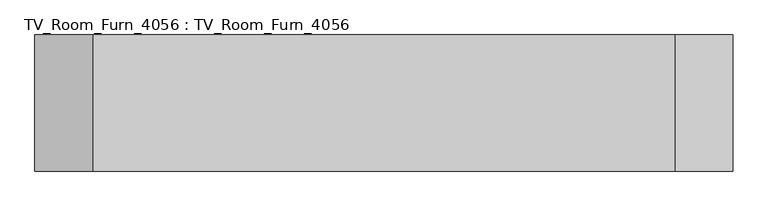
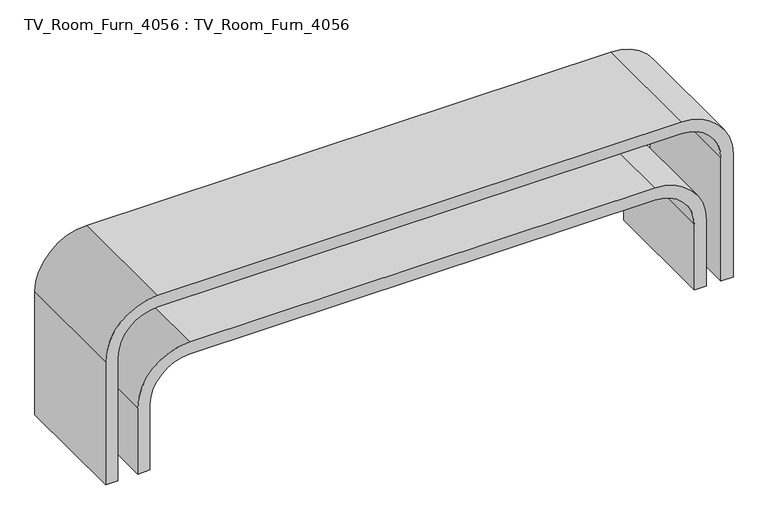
"""IFC4 building model written with IfcOpenShell, lengths in millimetres: furniture geometry, TV_Room_Furn_4056 : TV_Room_Furn_4056."""

from ifc_helpers import new_model, si_unit, point, frame, frame_2d, origin, place, context, project, spatial, polyline, circle_curve, trimmed, segment, composite_curve, outline, extrude, source, transform, mapped, element, save


def tv_room_furn_4056_tv_room_furn_4056_870fe8c4(model_context):
    return source(origin(), model_context, "Body", "SweptSolid", [
        extrude(outline(composite_curve([segment(trimmed(circle_curve(frame_2d((285.0039964, 1017.6724373)), 212.1320344), [point((285.0039964, 1229.8044717))], [point((497.1360307, 1017.6724373))], False, "CARTESIAN"), True, "CONTINUOUS"), segment(polyline([(497.1360307, 1017.6724373), (497.1360307, -882.3275627)]), True, "CONTINUOUS"), segment(trimmed(circle_curve(frame_2d((285.0039964, -882.3275627)), 212.1320344), [point((497.1360307, -882.3275627))], [point((285.0039964, -1094.459597))], False, "CARTESIAN"), True, "CONTINUOUS"), segment(polyline([(285.0039964, -1094.459597), (0.0, -1094.459597), (0.0, -1044.459597), (282.9910052, -1044.459597)]), True, "CONTINUOUS"), segment(trimmed(circle_curve(frame_2d((282.9910052, -882.3275627)), 162.1320344), [point((282.9910052, -1044.459597))], [point((445.1230396, -882.3275627))], True, "CARTESIAN"), True, "CONTINUOUS"), segment(polyline([(445.1230396, -882.3275627), (445.1230396, 1017.6724373)]), True, "CONTINUOUS"), segment(trimmed(circle_curve(frame_2d((282.9910052, 1017.6724373)), 162.1320344), [point((445.1230396, 1017.6724373))], [point((282.9910052, 1179.8044717))], True, "CARTESIAN"), True, "CONTINUOUS"), segment(polyline([(282.9910052, 1179.8044717), (0.0, 1179.8044717), (0.0, 1229.8044717), (285.0039964, 1229.8044717)]), True, "CONTINUOUS")], self_intersect=False)), frame((0.0, -251.5396497, 0.0), z_axis=(0.0, 1.0, 0.0), x_axis=(0.0, 0.0, 1.0)), (0.0, 0.0, 1.0), 500.0),
        extrude(outline(composite_curve([segment(polyline([(532.1320344, -1225.6808572), (0.0, -1225.6808572), (0.0, -1175.6808572), (532.1320344, -1175.6808572)]), True, "CONTINUOUS"), segment(trimmed(circle_curve(frame_2d((532.1320344, -1013.5488228)), 162.1320344), [point((532.1320344, -1175.6808572))], [point((694.2640687, -1013.5488228))], True, "CARTESIAN"), True, "CONTINUOUS"), segment(polyline([(694.2640687, -1013.5488228), (694.2640687, 1126.4511772)]), True, "CONTINUOUS"), segment(trimmed(circle_curve(frame_2d((532.1320344, 1126.4511772)), 162.1320344), [point((694.2640687, 1126.4511772))], [point((532.1320344, 1288.5832115))], True, "CARTESIAN"), True, "CONTINUOUS"), segment(polyline([(532.1320344, 1288.5832115), (0.0, 1288.5832115), (0.0, 1338.5832115), (532.1320344, 1338.5832115)]), True, "CONTINUOUS"), segment(trimmed(circle_curve(frame_2d((532.1320344, 1126.4511772)), 212.1320344), [point((532.1320344, 1338.5832115))], [point((744.2640687, 1126.4511772))], False, "CARTESIAN"), True, "CONTINUOUS"), segment(polyline([(744.2640687, 1126.4511772), (744.2640687, -1013.5488228)]), True, "CONTINUOUS"), segment(trimmed(circle_curve(frame_2d((532.1320344, -1013.5488228)), 212.1320344), [point((744.2640687, -1013.5488228))], [point((532.1320344, -1225.6808572))], False, "CARTESIAN"), True, "CONTINUOUS")], self_intersect=False)), frame((0.0, -251.5396497, 0.0), z_axis=(0.0, 1.0, 0.0), x_axis=(0.0, 0.0, 1.0)), (0.0, 0.0, 1.0), 500.0),
    ])


if __name__ == "__main__":
    model = new_model("IFC4")
    model_context = context("Model", 3, world=origin())
    ifc_project = project(units=[si_unit("LENGTHUNIT", "METRE", prefix="MILLI")], contexts=[model_context])
    site = spatial("IfcSite", under=ifc_project)
    building = spatial("IfcBuilding", under=site)
    placement = place(None, origin())
    tv_room_furn_4056_tv_room_furn_4056_shape = tv_room_furn_4056_tv_room_furn_4056_870fe8c4(model_context)
    element("IfcFurniture", 1, ObjectType="TV_Room_Furn_4056 : TV_Room_Furn_4056", at=placement, inside=building, context=model_context, shape_type="MappedRepresentation", body=[
        mapped(tv_room_furn_4056_tv_room_furn_4056_shape, transform((0.0, 0.0, 0.0), x_axis=(1.0, 0.0, 0.0), y_axis=(0.0, 1.0, 0.0), z_axis=(0.0, 0.0, 1.0))),
    ])
    save(model, "model.ifc")
